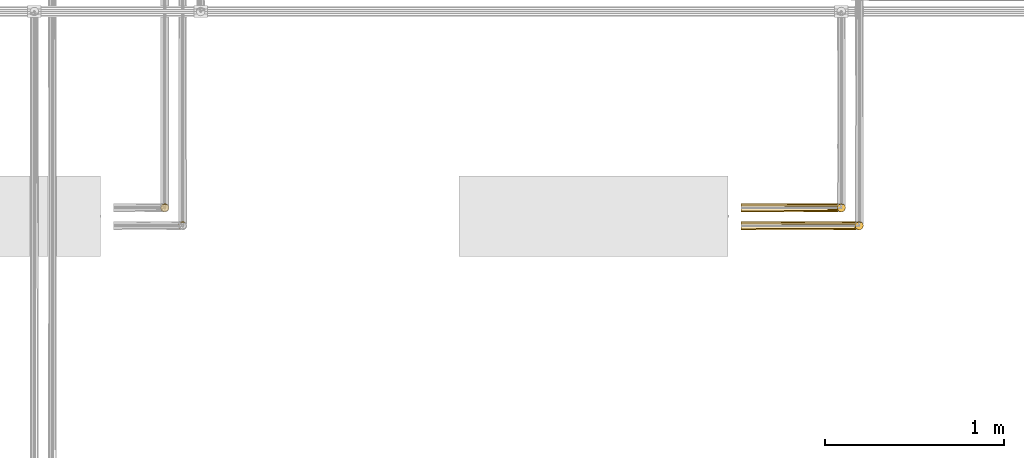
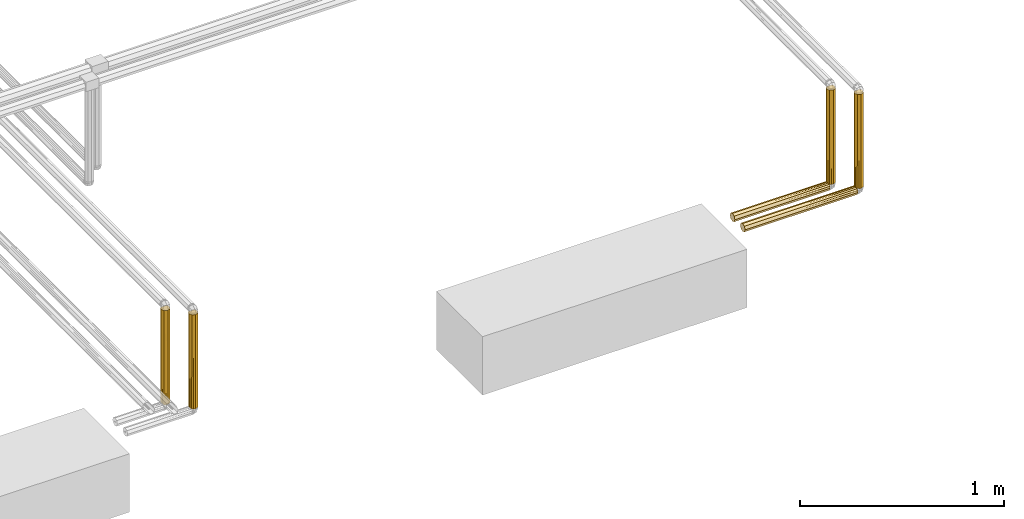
# One storey, part 218 of 652: 6 coverings.
"""IFC2X3 building model written with IfcOpenShell, lengths in millimetres."""

from ifc_helpers import new_model, entity, si_unit, converted_unit, direction, frame, origin, place, context, subcontext, project, spatial, faceted_brep, material, type_object, element, save


model = new_model("IFC2X3")

# Units and contexts
model_context = context("Model", 3, precision=0.01, world=frame((0.0, 0.0, 308426.39999999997)), true_north=direction((6.123233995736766e-17, 1.0)))
plan_context = context("Plan", 3, precision=0.01, world=frame((0.0, 0.0, 308426.39999999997)), true_north=direction((6.123233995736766e-17, 1.0)))
body_context = subcontext(model_context, "Body", "Model", "MODEL_VIEW")
ifc_project = project(units=[si_unit("LENGTHUNIT", "METRE", prefix="MILLI"), si_unit("AREAUNIT", "SQUARE_METRE"), si_unit("VOLUMEUNIT", "CUBIC_METRE"), converted_unit("PLANEANGLEUNIT", "DEGREE", entity("IfcPlaneAngleMeasure", 0.017453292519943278), si_unit("PLANEANGLEUNIT", "RADIAN"), dimensions=[0, 0, 0, 0, 0, 0, 0])], contexts=[model_context, plan_context])

# Site, building, storey
site_placement = place(None, origin())
site = spatial("IfcSite", under=ifc_project, at=site_placement, Name="Default", CompositionType="ELEMENT")
building_placement = place(site_placement, origin())
building = spatial("IfcBuilding", under=site, at=building_placement, CompositionType="ELEMENT")
storey_placement = place(building_placement, frame((0.0, 0.0, 1730.6999999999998)))
storey = spatial("IfcBuildingStorey", under=building, at=storey_placement, Name="EG_Produktion_FFB", CompositionType="ELEMENT", Elevation=1730.6999999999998)

# Coverings
ifc_material = material(Name="Dämmung - Armaflex-Schlauch")
covering_type = type_object("IfcCoveringType", Name="Rohrdämmung außen:Armaflex-Schlauch", PredefinedType="INSULATION")
covering_1_placement = place(storey_placement, frame((62174.36218313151, 66844.67878550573, 2725.3577722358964)))
element("IfcCovering", 1, at=covering_1_placement, inside=storey, type_object=covering_type, material=ifc_material, Name="Rohrdämmung außen:Armaflex-Schlauch", ObjectType="Rohrdämmung außen:Armaflex-Schlauch", PredefinedType="INSULATION", context=body_context, shape_type="Brep", body=[
    faceted_brep([(640.0, 1.5952722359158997, -25.357772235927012), (640.0, 3.3352410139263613, -29.558428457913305), (640.0, 5.075209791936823, -33.759084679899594), (640.0, 6.815178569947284, -37.95974090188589), (640.0, 8.55514734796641, -42.16039712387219), (640.0, 12.755803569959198, -43.90036590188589), (640.0, 16.956459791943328, -45.6403346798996), (640.0, 21.157116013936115, -47.380303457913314), (640.0, 25.35777223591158, -49.120272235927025), (640.0, 29.329945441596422, -47.4749442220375), (640.0, 33.759084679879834, -45.6403346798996), (640.0, 37.95974090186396, -43.90036590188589), (640.0, 42.160397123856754, -42.16039712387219), (640.0, 43.90036590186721, -37.95974090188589), (640.0, 45.64033467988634, -33.759084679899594), (640.0, 47.3803034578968, -29.558428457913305), (640.0, 49.12027223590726, -25.357772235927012), (640.0, 48.047093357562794, -20.423230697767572), (640.0, 46.97391447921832, -15.488689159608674), (640.0, 43.951164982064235, -11.448105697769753), (640.0, 40.92841548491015, -7.407522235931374), (640.0, 9.787128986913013, -7.407522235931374), (640.0, 6.764379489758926, -11.448105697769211), (640.0, 3.7416299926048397, -15.488689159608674), (640.0, 2.6684511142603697, -20.423230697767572), (0.0, 37.95974090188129, -43.900365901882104), (0.0, 33.759084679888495, -45.640334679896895), (0.0, 29.55842845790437, -47.380303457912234), (0.0, 25.35777223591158, -49.1202722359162), (0.0, 21.38559902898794, -47.47494422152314), (0.0, 17.4134258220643, -45.82961620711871), (0.0, 12.98428658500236, -43.995006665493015), (0.0, 8.55514734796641, -42.16039712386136), (0.0, 6.815178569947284, -37.95974090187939), (0.0, 5.075209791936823, -33.75908467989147), (0.0, 3.3352410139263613, -29.55842845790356), (0.0, 1.5952722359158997, -25.357772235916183), (0.0, 3.2406002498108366, -21.385599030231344), (0.0, 5.075209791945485, -16.95645979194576), (0.0, 6.815178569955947, -12.755803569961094), (0.0, 8.55514734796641, -8.55514734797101), (0.0, 12.755803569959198, -6.8151785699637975), (0.0, 16.956459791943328, -5.0752097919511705), (0.0, 21.157116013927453, -3.3352410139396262), (0.0, 25.35777223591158, -1.5952722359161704), (0.0, 29.558428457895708, -3.3352410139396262), (0.0, 33.759084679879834, -5.075209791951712), (0.0, 37.95974090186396, -6.815178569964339), (0.0, 42.160397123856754, -8.55514734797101), (0.0, 43.90036590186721, -12.755803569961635), (0.0, 45.640334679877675, -16.956459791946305), (0.0, 47.3803034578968, -21.157116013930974), (0.0, 49.12027223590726, -25.357772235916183), (0.0, 47.474944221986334, -29.329945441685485), (0.0, 45.82961620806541, -33.30211864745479), (0.0, 43.99500666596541, -37.73125788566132), (0.0, 42.160397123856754, -42.16039712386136), (634.9379666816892, 29.512793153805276, -2.3454889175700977), (637.8440916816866, 37.29811477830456, -5.2516139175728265), (635.688183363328, 33.66781407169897, -3.095705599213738), (634.1877500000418, 25.35777223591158, -1.595272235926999), (634.9379666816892, 21.202751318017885, -2.3454889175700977), (635.688183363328, 17.04773040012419, -3.095705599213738), (637.8440916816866, 13.417429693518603, -5.251613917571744)], [[[0, 1, 2, 3, 4, 5, 6, 7, 8, 9, 10, 11, 12, 13, 14, 15, 16, 17, 18, 19, 20, 21, 22, 23, 24]], [[25, 26, 27, 28, 29, 30, 31, 32, 33, 34, 35, 36, 37, 38, 39, 40, 41, 42, 43, 44, 45, 46, 47, 48, 49, 50, 51, 52, 53, 54, 55, 56]], [[34, 33, 32, 4, 3, 2, 1, 0, 36, 35]], [[30, 29, 28, 8, 7, 6, 5, 4, 32, 31]], [[9, 8, 28, 27, 26, 25, 56, 12, 11, 10]], [[12, 56, 55, 54, 53, 52, 16, 15, 14, 13]], [[19, 49, 48]], [[52, 51, 16]], [[50, 18, 17]], [[50, 49, 18]], [[44, 57, 45]], [[20, 47, 58]], [[59, 46, 45]], [[17, 51, 50]], [[46, 59, 58]], [[18, 49, 19]], [[57, 59, 45]], [[16, 51, 17]], [[48, 20, 19]], [[60, 57, 44]], [[47, 20, 48]], [[47, 46, 58]], [[44, 61, 60]], [[24, 38, 37]], [[61, 44, 43]], [[62, 42, 63]], [[22, 40, 39]], [[40, 22, 21]], [[38, 24, 23]], [[21, 41, 40]], [[42, 62, 43]], [[37, 0, 24]], [[21, 63, 41]], [[39, 23, 22]], [[39, 38, 23]], [[43, 62, 61]], [[37, 36, 0]], [[63, 42, 41]], [[61, 62, 63, 21, 20, 58, 59, 57, 60]]]),
])
covering_2_placement = place(storey_placement, frame((62174.3621831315, 66944.67878550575, 2725.357772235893)))
element("IfcCovering", 2, at=covering_2_placement, inside=storey, type_object=covering_type, material=ifc_material, Name="Rohrdämmung außen:Armaflex-Schlauch", ObjectType="Rohrdämmung außen:Armaflex-Schlauch", PredefinedType="INSULATION", context=body_context, shape_type="Brep", body=[
    faceted_brep([(540.0, 1.5952722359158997, -25.357772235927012), (540.0, 3.3352410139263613, -29.558428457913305), (540.0, 5.075209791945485, -33.759084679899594), (540.0, 6.815178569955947, -37.95974090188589), (540.0, 8.55514734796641, -42.16039712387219), (540.0, 12.755803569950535, -43.90036590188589), (540.0, 16.956459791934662, -45.6403346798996), (540.0, 21.157116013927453, -47.380303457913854), (540.0, 25.35777223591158, -49.120272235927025), (540.0, 30.065533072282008, -47.170253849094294), (540.0, 33.759084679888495, -45.6403346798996), (540.0, 37.95974090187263, -43.90036590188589), (540.0, 42.160397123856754, -42.16039712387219), (540.0, 43.90036590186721, -37.95974090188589), (540.0, 45.640334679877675, -33.759084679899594), (540.0, 47.3803034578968, -29.558428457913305), (540.0, 49.12027223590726, -25.357772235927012), (540.0, 48.047093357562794, -20.423230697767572), (540.0, 46.97391447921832, -15.488689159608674), (540.0, 43.951164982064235, -11.448105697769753), (540.0, 40.92841548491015, -7.407522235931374), (540.0, 9.787128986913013, -7.407522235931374), (540.0, 6.764379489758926, -11.448105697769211), (540.0, 3.7416299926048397, -15.488689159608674), (540.0, 2.6684511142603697, -20.423230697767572), (0.0, 37.95974090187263, -43.900365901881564), (0.0, 33.759084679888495, -45.640334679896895), (0.0, 29.55842845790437, -47.38030345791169), (0.0, 25.35777223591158, -49.1202722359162), (0.0, 20.65001139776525, -47.170253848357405), (0.0, 15.942250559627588, -45.220235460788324), (0.0, 8.55514734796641, -42.16039712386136), (0.0, 6.815178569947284, -37.95974090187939), (0.0, 5.075209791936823, -33.75908467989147), (0.0, 3.3352410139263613, -29.55842845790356), (0.0, 1.5952722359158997, -25.357772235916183), (0.0, 3.5452906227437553, -20.650011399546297), (0.0, 5.075209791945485, -16.95645979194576), (0.0, 6.81517856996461, -12.755803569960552), (0.0, 8.55514734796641, -8.55514734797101), (0.0, 12.755803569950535, -6.8151785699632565), (0.0, 16.956459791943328, -5.0752097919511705), (0.0, 21.157116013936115, -3.335241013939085), (0.0, 25.35777223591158, -1.5952722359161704), (0.0, 29.558428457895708, -3.3352410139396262), (0.0, 33.759084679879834, -5.075209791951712), (0.0, 37.95974090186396, -6.8151785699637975), (0.0, 42.160397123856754, -8.55514734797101), (0.0, 43.90036590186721, -12.755803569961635), (0.0, 45.640334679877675, -16.956459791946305), (0.0, 47.38030345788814, -21.157116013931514), (0.0, 49.12027223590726, -25.357772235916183), (0.0, 47.170253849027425, -30.065533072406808), (0.0, 45.22023546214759, -34.77329390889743), (0.0, 42.160397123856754, -42.16039712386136), (534.937966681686, 29.512793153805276, -2.3454889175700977), (537.8440916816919, 37.29811477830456, -5.2516139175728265), (535.6881833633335, 33.66781407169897, -3.095705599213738), (534.1877500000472, 25.35777223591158, -1.595272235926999), (534.937966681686, 21.202751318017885, -2.3454889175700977), (535.6881833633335, 17.04773040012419, -3.095705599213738), (537.8440916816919, 13.417429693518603, -5.251613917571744)], [[[0, 1, 2, 3, 4, 5, 6, 7, 8, 9, 10, 11, 12, 13, 14, 15, 16, 17, 18, 19, 20, 21, 22, 23, 24]], [[25, 26, 27, 28, 29, 30, 31, 32, 33, 34, 35, 36, 37, 38, 39, 40, 41, 42, 43, 44, 45, 46, 47, 48, 49, 50, 51, 52, 53, 54]], [[33, 32, 31, 4, 3, 2, 1, 0, 35, 34]], [[31, 30, 29, 28, 8, 7, 6, 5, 4]], [[51, 16, 15, 14, 13, 12, 54, 53, 52]], [[11, 10, 9, 8, 28, 27, 26, 25, 54, 12]], [[19, 48, 47]], [[51, 50, 16]], [[49, 18, 17]], [[49, 48, 18]], [[43, 55, 44]], [[20, 46, 56]], [[57, 45, 44]], [[17, 50, 49]], [[45, 57, 56]], [[18, 48, 19]], [[55, 57, 44]], [[16, 50, 17]], [[47, 20, 19]], [[58, 55, 43]], [[46, 20, 47]], [[46, 45, 56]], [[43, 59, 58]], [[24, 37, 36, 35]], [[59, 43, 42]], [[60, 41, 61]], [[22, 39, 38]], [[39, 22, 21]], [[37, 24, 23]], [[21, 40, 39]], [[41, 60, 42]], [[21, 61, 40]], [[38, 23, 22]], [[38, 37, 23]], [[42, 60, 59]], [[35, 0, 24]], [[61, 41, 40]], [[59, 60, 61, 21, 20, 56, 57, 55, 58]]]),
])
covering_3_placement = place(storey_placement, frame((62806.95466089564, 66844.67878550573, 3283.6450222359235)))
element("IfcCovering", 3, at=covering_3_placement, inside=storey, type_object=covering_type, material=ifc_material, Name="Rohrdämmung außen:Armaflex-Schlauch", ObjectType="Rohrdämmung außen:Armaflex-Schlauch", PredefinedType="INSULATION", context=body_context, shape_type="Brep", body=[
    faceted_brep([(9.787128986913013, 43.30802223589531, -1.5952722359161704), (6.764379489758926, 39.267438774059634, -1.5952722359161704), (3.7416299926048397, 35.22685531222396, -1.5952722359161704), (2.6684511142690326, 30.29231377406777, -1.5952722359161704), (1.5952722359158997, 25.357772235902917, -1.5952722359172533), (3.3352410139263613, 21.157116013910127, -1.5952722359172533), (5.075209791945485, 16.956459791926, -1.5952722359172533), (6.815178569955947, 12.755803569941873, -1.5952722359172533), (8.55514734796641, 8.555147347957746, -1.5952722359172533), (12.755803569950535, 6.815178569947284, -1.5952722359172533), (16.956459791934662, 5.075209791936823, -1.5952722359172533), (20.85113670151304, 3.461981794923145, -1.5952722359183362), (25.35777223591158, 1.5952722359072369, -1.5952722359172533), (29.558428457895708, 3.3352410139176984, -1.5952722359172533), (33.759084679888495, 5.075209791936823, -1.5952722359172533), (37.95974090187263, 6.815178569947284, -1.5952722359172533), (42.160397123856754, 8.555147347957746, -1.5952722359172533), (43.90036590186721, 12.755803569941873, -1.5952722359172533), (45.640334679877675, 16.956459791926, -1.5952722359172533), (47.253562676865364, 20.851136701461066, -1.5952722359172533), (49.12027223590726, 25.357772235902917, -1.5952722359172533), (48.047093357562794, 30.29231377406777, -1.5952722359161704), (46.97391447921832, 35.22685531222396, -1.5952722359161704), (43.951164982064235, 39.267438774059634, -1.5952722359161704), (40.92841548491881, 43.30802223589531, -1.5952722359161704), (37.95974090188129, 6.815178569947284, -565.6947722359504), (33.759084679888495, 5.07520979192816, -565.694772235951), (29.558428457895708, 3.3352410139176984, -565.6947722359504), (25.35777223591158, 1.5952722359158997, -565.6947722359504), (20.423230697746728, 2.668451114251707, -565.6947722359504), (15.488689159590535, 3.741629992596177, -565.6947722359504), (11.4481056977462, 6.764379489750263, -565.6947722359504), (7.407522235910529, 9.78712898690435, -565.6947722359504), (7.407522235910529, 40.928415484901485, -565.6947722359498), (11.4481056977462, 43.95116498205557, -565.6947722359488), (15.488689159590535, 46.97391447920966, -565.6947722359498), (20.423230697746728, 48.047093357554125, -565.6947722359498), (25.35777223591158, 49.12027223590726, -565.6947722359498), (29.558428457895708, 47.38030345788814, -565.6947722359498), (33.759084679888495, 45.640334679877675, -565.6947722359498), (37.95974090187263, 43.90036590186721, -565.6947722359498), (42.160397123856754, 42.160397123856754, -565.6947722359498), (43.90036590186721, 37.95974090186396, -565.6947722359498), (45.640334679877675, 33.759084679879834, -565.6947722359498), (47.3803034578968, 29.558428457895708, -565.6947722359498), (49.12027223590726, 25.35777223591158, -565.6947722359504), (47.253562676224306, 20.85113669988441, -565.6947722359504), (45.38685311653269, 16.344501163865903, -565.6947722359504), (43.773625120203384, 12.449824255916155, -565.6947722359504), (42.160397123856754, 8.55514734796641, -565.6947722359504), (29.512793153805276, 48.37005555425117, -6.657305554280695), (37.29811477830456, 45.46393055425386, -3.7511805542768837), (33.66781407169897, 47.6198388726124, -5.907088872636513), (25.35777223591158, 49.1202722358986, -7.407522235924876), (21.202751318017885, 48.37005555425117, -6.657305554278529), (17.04773040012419, 47.6198388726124, -5.907088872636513), (13.417429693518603, 45.46393055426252, -3.7511805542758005), (5.251613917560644, 37.2981147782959, -563.5388639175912), (2.34548891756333, 29.51279315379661, -560.632738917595), (1.5952722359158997, 25.35777223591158, -559.8825222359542), (3.095705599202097, 33.66781407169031, -561.3829555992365), (2.345488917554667, 21.202751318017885, -560.6327389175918), (3.095705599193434, 17.04773040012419, -561.3829555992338), (5.251613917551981, 13.417429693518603, -563.5388639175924)], [[[0, 1, 2, 3, 4, 5, 6, 7, 8, 9, 10, 11, 12, 13, 14, 15, 16, 17, 18, 19, 20, 21, 22, 23, 24]], [[25, 26, 27, 28, 29, 30, 31, 32, 33, 34, 35, 36, 37, 38, 39, 40, 41, 42, 43, 44, 45, 46, 47, 48, 49]], [[26, 25, 49, 16, 15, 14, 13, 12, 28, 27]], [[16, 49, 48, 47, 46, 45, 20, 19, 18, 17]], [[23, 42, 41]], [[45, 44, 20]], [[43, 22, 21]], [[43, 42, 22]], [[37, 50, 38]], [[24, 40, 51]], [[52, 39, 38]], [[21, 44, 43]], [[39, 52, 51]], [[22, 42, 23]], [[50, 52, 38]], [[20, 44, 21]], [[41, 24, 23]], [[53, 50, 37]], [[40, 24, 41]], [[40, 39, 51]], [[54, 53, 37]], [[36, 55, 54]], [[56, 34, 0]], [[1, 57, 2]], [[56, 55, 35]], [[57, 1, 33]], [[58, 4, 3]], [[35, 55, 36]], [[58, 59, 4]], [[54, 37, 36]], [[34, 56, 35]], [[2, 60, 3]], [[34, 33, 0]], [[3, 60, 58]], [[1, 0, 33]], [[57, 60, 2]], [[59, 61, 4]], [[29, 28, 11]], [[5, 61, 62]], [[30, 9, 31]], [[63, 6, 62]], [[8, 32, 31]], [[30, 29, 10]], [[10, 29, 11]], [[4, 61, 5]], [[31, 9, 8]], [[28, 12, 11]], [[30, 10, 9]], [[6, 63, 7]], [[32, 7, 63]], [[5, 62, 6]], [[7, 32, 8]], [[52, 50, 53, 54, 55, 56, 0, 24, 51]], [[60, 57, 33, 32, 63, 62, 61, 59, 58]]]),
])
covering_4_placement = place(storey_placement, frame((62706.95466089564, 66944.67878550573, 3283.6450222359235)))
element("IfcCovering", 4, at=covering_4_placement, inside=storey, type_object=covering_type, material=ifc_material, Name="Rohrdämmung außen:Armaflex-Schlauch", ObjectType="Rohrdämmung außen:Armaflex-Schlauch", PredefinedType="INSULATION", context=body_context, shape_type="Brep", body=[
    faceted_brep([(3.7416299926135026, 35.2268553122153, -1.5952722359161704), (2.6684511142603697, 30.29231377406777, -1.5952722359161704), (1.5952722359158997, 25.35777223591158, -1.5952722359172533), (3.335241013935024, 21.157116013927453, -1.5952722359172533), (5.075209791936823, 16.956459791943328, -1.5952722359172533), (6.815178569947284, 12.755803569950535, -1.5952722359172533), (8.55514734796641, 8.55514734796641, -1.5952722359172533), (12.755803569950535, 6.815178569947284, -1.5952722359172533), (16.956459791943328, 5.075209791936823, -1.5952722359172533), (20.851136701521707, 3.4619817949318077, -1.5952722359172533), (25.35777223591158, 1.5952722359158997, -1.5952722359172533), (29.558428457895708, 3.335241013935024, -1.5952722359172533), (33.759084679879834, 5.075209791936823, -1.5952722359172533), (37.95974090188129, 6.815178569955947, -1.5952722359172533), (42.160397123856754, 8.55514734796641, -1.5952722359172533), (43.90036590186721, 12.755803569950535, -1.5952722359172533), (45.64033467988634, 16.956459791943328, -1.5952722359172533), (47.253562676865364, 20.851136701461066, -1.5952722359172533), (49.12027223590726, 25.35777223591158, -1.5952722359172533), (48.047093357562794, 30.29231377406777, -1.5952722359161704), (46.97391447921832, 35.22685531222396, -1.5952722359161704), (43.951164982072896, 39.267438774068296, -1.5952722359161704), (40.92841548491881, 43.30802223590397, -1.5952722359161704), (9.787128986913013, 43.30802223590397, -1.5952722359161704), (6.764379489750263, 39.267438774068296, -1.5952722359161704), (37.95974090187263, 6.815178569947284, -565.6947722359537), (33.759084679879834, 5.075209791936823, -565.6947722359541), (29.558428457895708, 3.3352410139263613, -565.6947722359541), (25.35777223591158, 1.5952722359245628, -565.6947722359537), (20.42323069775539, 2.6684511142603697, -565.6947722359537), (15.488689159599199, 3.7416299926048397, -565.6947722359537), (11.448105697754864, 6.764379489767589, -565.6947722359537), (7.407522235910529, 9.787128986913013, -565.6947722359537), (7.407522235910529, 40.92841548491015, -565.6947722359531), (11.4481056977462, 43.95116498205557, -565.694772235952), (15.488689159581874, 46.97391447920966, -565.6947722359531), (20.423230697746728, 48.047093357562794, -565.6947722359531), (25.35777223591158, 49.12027223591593, -565.6947722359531), (29.55842845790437, 47.3803034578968, -565.6947722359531), (33.759084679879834, 45.64033467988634, -565.6947722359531), (37.95974090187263, 43.90036590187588, -565.6947722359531), (42.160397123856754, 42.160397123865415, -565.6947722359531), (43.90036590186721, 37.95974090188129, -565.6947722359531), (45.64033467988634, 33.759084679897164, -565.6947722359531), (47.3803034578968, 29.55842845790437, -565.6947722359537), (49.12027223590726, 25.357772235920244, -565.6947722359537), (47.253562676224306, 20.851136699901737, -565.6947722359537), (45.38685311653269, 16.344501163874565, -565.6947722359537), (43.773625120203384, 12.449824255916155, -565.6947722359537), (42.160397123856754, 8.55514734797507, -565.6947722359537), (29.512793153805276, 48.3700555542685, -6.657305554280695), (37.29811477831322, 45.46393055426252, -3.7511805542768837), (33.66781407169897, 47.61983887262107, -5.907088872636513), (25.35777223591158, 49.12027223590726, -7.407522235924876), (21.202751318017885, 48.3700555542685, -6.657305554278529), (17.04773040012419, 47.61983887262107, -5.907088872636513), (13.41742969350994, 45.46393055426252, -3.7511805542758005), (5.251613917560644, 37.29811477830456, -563.5388639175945), (2.34548891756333, 29.512793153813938, -560.6327389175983), (1.5952722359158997, 25.357772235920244, -559.8825222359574), (3.095705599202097, 33.66781407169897, -561.3829555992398), (2.345488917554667, 21.20275131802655, -560.632738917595), (3.095705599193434, 17.047730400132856, -561.3829555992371), (5.251613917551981, 13.417429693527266, -563.5388639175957)], [[[0, 1, 2, 3, 4, 5, 6, 7, 8, 9, 10, 11, 12, 13, 14, 15, 16, 17, 18, 19, 20, 21, 22, 23, 24]], [[25, 26, 27, 28, 29, 30, 31, 32, 33, 34, 35, 36, 37, 38, 39, 40, 41, 42, 43, 44, 45, 46, 47, 48, 49]], [[26, 25, 49, 14, 13, 12, 11, 10, 28, 27]], [[14, 49, 48, 47, 46, 45, 18, 17, 16, 15]], [[21, 42, 41]], [[45, 44, 18]], [[43, 20, 19]], [[43, 42, 20]], [[37, 50, 38]], [[22, 40, 51]], [[52, 39, 38]], [[19, 44, 43]], [[39, 52, 51]], [[20, 42, 21]], [[50, 52, 38]], [[18, 44, 19]], [[41, 22, 21]], [[53, 50, 37]], [[40, 22, 41]], [[40, 39, 51]], [[54, 53, 37]], [[36, 55, 54]], [[56, 34, 23]], [[24, 57, 0]], [[56, 55, 35]], [[57, 24, 33]], [[58, 2, 1]], [[35, 55, 36]], [[58, 59, 2]], [[54, 37, 36]], [[34, 56, 35]], [[0, 60, 1]], [[34, 33, 23]], [[1, 60, 58]], [[24, 23, 33]], [[57, 60, 0]], [[59, 61, 2]], [[29, 28, 9]], [[3, 61, 62]], [[30, 7, 31]], [[63, 4, 62]], [[6, 32, 31]], [[30, 29, 8]], [[8, 29, 9]], [[2, 61, 3]], [[31, 7, 6]], [[28, 10, 9]], [[30, 8, 7]], [[4, 63, 5]], [[32, 5, 63]], [[3, 62, 4]], [[5, 32, 6]], [[52, 50, 53, 54, 55, 56, 23, 22, 51]], [[60, 57, 33, 32, 63, 62, 61, 59, 58]]]),
])
covering_5_placement = place(storey_placement, frame((59034.64222776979, 66844.67878550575, 2716.35497776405)))
element("IfcCovering", 5, at=covering_5_placement, inside=storey, type_object=covering_type, material=ifc_material, Name="Rohrdämmung außen:Armaflex-Schlauch", ObjectType="Rohrdämmung außen:Armaflex-Schlauch", PredefinedType="INSULATION", context=body_context, shape_type="Brep", body=[
    faceted_brep([(7.407522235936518, 9.787128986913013, 1.5952722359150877), (7.407522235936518, 40.92841548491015, 1.5952722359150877), (11.44810569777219, 43.951164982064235, 1.595272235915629), (15.488689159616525, 46.97391447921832, 1.5952722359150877), (20.423230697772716, 48.047093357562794, 1.595272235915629), (25.357772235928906, 49.12027223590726, 1.595272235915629), (29.558428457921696, 47.3803034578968, 1.595272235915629), (33.759084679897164, 45.640334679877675, 1.595272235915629), (37.95974090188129, 43.90036590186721, 1.5952722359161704), (42.16039712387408, 42.160397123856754, 1.5952722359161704), (43.90036590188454, 37.95974090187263, 1.5952722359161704), (45.64033467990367, 33.759084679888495, 1.5952722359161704), (47.25356267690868, 29.86440777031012, 1.5952722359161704), (49.12027223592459, 25.35777223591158, 1.5952722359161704), (47.25356267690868, 20.85113670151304, 1.5952722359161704), (45.64033467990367, 16.956459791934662, 1.5952722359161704), (43.9003659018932, 12.755803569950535, 1.595272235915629), (42.16039712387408, 8.55514734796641, 1.5952722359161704), (37.95974090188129, 6.815178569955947, 1.5952722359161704), (33.759084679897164, 5.075209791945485, 1.595272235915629), (29.86440777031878, 3.4619817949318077, 1.5952722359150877), (25.357772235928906, 1.5952722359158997, 1.595272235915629), (20.423230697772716, 2.6684511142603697, 1.595272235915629), (15.488689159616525, 3.7416299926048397, 1.5952722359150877), (11.44810569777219, 6.764379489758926, 1.5952722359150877), (3.335241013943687, 21.157116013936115, 565.6947722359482), (5.075209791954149, 16.956459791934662, 565.6947722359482), (6.81517856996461, 12.755803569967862, 565.6947722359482), (8.55514734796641, 8.55514734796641, 565.6947722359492), (12.755803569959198, 6.815178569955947, 565.6947722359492), (16.956459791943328, 5.075209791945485, 565.6947722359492), (21.157116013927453, 3.335241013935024, 565.6947722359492), (25.35777223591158, 1.5952722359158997, 565.6947722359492), (29.864407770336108, 3.4619817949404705, 565.6947722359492), (34.37104330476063, 5.328691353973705, 565.6947722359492), (38.26572021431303, 6.941919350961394, 565.6947722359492), (42.160397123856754, 8.55514734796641, 565.6947722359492), (43.90036590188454, 12.755803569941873, 565.6947722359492), (45.640334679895, 16.956459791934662, 565.6947722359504), (47.38030345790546, 21.15711601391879, 565.6947722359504), (49.12027223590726, 25.35777223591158, 565.6947722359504), (48.04709335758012, 30.292313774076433, 565.6947722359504), (46.973914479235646, 35.22685531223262, 565.6947722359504), (43.951164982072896, 39.26743877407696, 565.6947722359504), (40.92841548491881, 43.30802223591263, 565.6947722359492), (9.787128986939, 43.30802223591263, 565.6947722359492), (6.764379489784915, 39.26743877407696, 565.6947722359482), (3.7416299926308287, 35.22685531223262, 565.6947722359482), (2.6684511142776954, 30.292313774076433, 565.6947722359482), (1.5952722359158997, 25.35777223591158, 565.6947722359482), (2.3454889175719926, 29.512793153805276, 6.6573055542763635), (1.5952722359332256, 25.35777223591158, 7.407522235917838), (3.0957055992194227, 33.66781407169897, 5.90708887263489), (5.25161391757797, 37.29811477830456, 3.7511805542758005), (13.417429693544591, 45.46393055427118, 563.5388639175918), (17.047730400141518, 47.61983887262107, 561.3829555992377), (21.20275131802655, 48.37005555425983, 560.6327389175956), (25.35777223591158, 49.12027223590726, 559.8825222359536), (29.512793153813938, 48.3700555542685, 560.6327389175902), (33.66781407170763, 47.61983887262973, 561.3829555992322), (37.29811477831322, 45.46393055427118, 563.5388639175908), (2.3454889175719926, 21.202751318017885, 6.657305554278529), (5.25161391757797, 13.417429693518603, 3.751180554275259), (3.0957055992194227, 17.04773040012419, 5.90708887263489)], [[[0, 1, 2, 3, 4, 5, 6, 7, 8, 9, 10, 11, 12, 13, 14, 15, 16, 17, 18, 19, 20, 21, 22, 23, 24]], [[25, 26, 27, 28, 29, 30, 31, 32, 33, 34, 35, 36, 37, 38, 39, 40, 41, 42, 43, 44, 45, 46, 47, 48, 49]], [[50, 51, 49]], [[48, 52, 50]], [[53, 46, 1]], [[2, 54, 3]], [[54, 55, 3]], [[54, 2, 45]], [[53, 52, 47]], [[56, 5, 4]], [[47, 52, 48]], [[56, 57, 5]], [[50, 49, 48]], [[46, 45, 1]], [[46, 53, 47]], [[2, 1, 45]], [[4, 55, 56]], [[3, 55, 4]], [[57, 58, 5]], [[41, 40, 12]], [[6, 58, 59]], [[42, 10, 43]], [[60, 7, 59]], [[9, 44, 43]], [[42, 41, 11]], [[11, 41, 12]], [[5, 58, 6]], [[43, 10, 9]], [[40, 13, 12]], [[42, 11, 10]], [[7, 60, 8]], [[44, 8, 60]], [[6, 59, 7]], [[8, 44, 9]], [[13, 40, 39, 38, 37, 36, 17, 16, 15, 14]], [[17, 36, 35, 34, 33, 32, 21, 20, 19, 18]], [[24, 29, 28]], [[32, 31, 21]], [[30, 23, 22]], [[30, 29, 23]], [[49, 61, 25]], [[0, 27, 62]], [[63, 26, 25]], [[22, 31, 30]], [[26, 63, 62]], [[23, 29, 24]], [[61, 63, 25]], [[21, 31, 22]], [[28, 0, 24]], [[51, 61, 49]], [[27, 0, 28]], [[27, 26, 62]], [[50, 52, 53, 1, 0, 62, 63, 61, 51]], [[44, 60, 59, 58, 57, 56, 55, 54, 45]]]),
])
covering_6_placement = place(storey_placement, frame((58934.642227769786, 66944.67878550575, 2716.3549777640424)))
element("IfcCovering", 6, at=covering_6_placement, inside=storey, type_object=covering_type, material=ifc_material, Name="Rohrdämmung außen:Armaflex-Schlauch", ObjectType="Rohrdämmung außen:Armaflex-Schlauch", PredefinedType="INSULATION", context=body_context, shape_type="Brep", body=[
    faceted_brep([(7.407522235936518, 9.78712898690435, 1.5952722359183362), (7.407522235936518, 40.92841548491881, 1.5952722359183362), (11.44810569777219, 43.951164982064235, 1.595272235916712), (15.488689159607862, 46.97391447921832, 1.5952722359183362), (20.42323069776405, 48.047093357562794, 1.5952722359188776), (25.357772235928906, 49.12027223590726, 1.5952722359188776), (29.558428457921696, 47.3803034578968, 1.5952722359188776), (33.759084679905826, 45.64033467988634, 1.5952722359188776), (37.95974090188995, 43.90036590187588, 1.5952722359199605), (42.16039712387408, 42.160397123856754, 1.5952722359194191), (43.90036590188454, 37.95974090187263, 1.5952722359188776), (45.640334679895, 33.759084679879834, 1.5952722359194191), (47.25356267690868, 29.864407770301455, 1.5952722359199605), (49.12027223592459, 25.35777223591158, 1.5952722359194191), (47.25356267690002, 20.851136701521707, 1.5952722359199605), (45.640334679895, 16.956459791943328, 1.5952722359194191), (43.90036590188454, 12.755803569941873, 1.5952722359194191), (42.16039712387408, 8.55514734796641, 1.5952722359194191), (37.95974090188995, 6.815178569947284, 1.5952722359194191), (33.759084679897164, 5.075209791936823, 1.5952722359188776), (29.86440777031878, 3.4619817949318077, 1.5952722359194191), (25.357772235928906, 1.5952722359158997, 1.5952722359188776), (20.42323069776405, 2.6684511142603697, 1.5952722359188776), (15.488689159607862, 3.7416299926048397, 1.5952722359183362), (11.44810569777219, 6.764379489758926, 1.5952722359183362), (3.335241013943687, 21.157116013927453, 565.6947722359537), (5.075209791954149, 16.956459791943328, 565.6947722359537), (6.81517856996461, 12.755803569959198, 565.6947722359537), (8.55514734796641, 8.55514734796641, 565.6947722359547), (12.755803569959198, 6.81517856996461, 565.6947722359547), (16.956459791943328, 5.075209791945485, 565.6947722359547), (21.157116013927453, 3.3352410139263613, 565.6947722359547), (25.35777223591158, 1.5952722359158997, 565.6947722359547), (29.864407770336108, 3.4619817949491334, 565.6947722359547), (34.371043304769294, 5.328691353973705, 565.6947722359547), (38.26572021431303, 6.941919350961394, 565.6947722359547), (42.160397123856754, 8.55514734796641, 565.6947722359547), (43.90036590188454, 12.755803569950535, 565.6947722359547), (45.640334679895, 16.956459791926, 565.6947722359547), (47.38030345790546, 21.15711601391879, 565.6947722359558), (49.12027223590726, 25.35777223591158, 565.6947722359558), (48.04709335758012, 30.29231377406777, 565.6947722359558), (46.973914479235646, 35.22685531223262, 565.6947722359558), (43.95116498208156, 39.267438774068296, 565.6947722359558), (40.92841548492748, 43.30802223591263, 565.6947722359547), (9.78712898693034, 43.30802223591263, 565.6947722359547), (6.764379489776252, 39.26743877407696, 565.6947722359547), (3.7416299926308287, 35.22685531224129, 565.6947722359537), (2.6684511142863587, 30.292313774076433, 565.6947722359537), (1.5952722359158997, 25.35777223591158, 565.6947722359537), (2.345488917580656, 29.512793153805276, 6.657305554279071), (1.5952722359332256, 25.35777223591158, 7.407522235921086), (3.0957055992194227, 33.66781407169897, 5.907088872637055), (5.25161391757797, 37.29811477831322, 3.751180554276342), (13.417429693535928, 45.46393055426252, 563.5388639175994), (17.047730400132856, 47.61983887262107, 561.3829555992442), (21.202751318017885, 48.3700555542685, 560.6327389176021), (25.35777223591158, 49.12027223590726, 559.882522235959), (29.512793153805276, 48.3700555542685, 560.6327389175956), (33.66781407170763, 47.61983887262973, 561.3829555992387), (37.29811477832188, 45.46393055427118, 563.5388639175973), (2.345488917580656, 21.202751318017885, 6.657305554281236), (5.25161391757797, 13.41742969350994, 3.751180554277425), (3.0957055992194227, 17.04773040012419, 5.907088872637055)], [[[0, 1, 2, 3, 4, 5, 6, 7, 8, 9, 10, 11, 12, 13, 14, 15, 16, 17, 18, 19, 20, 21, 22, 23, 24]], [[25, 26, 27, 28, 29, 30, 31, 32, 33, 34, 35, 36, 37, 38, 39, 40, 41, 42, 43, 44, 45, 46, 47, 48, 49]], [[50, 51, 49]], [[48, 52, 50]], [[53, 46, 1]], [[2, 54, 3]], [[54, 55, 3]], [[54, 2, 45]], [[53, 52, 47]], [[56, 5, 4]], [[47, 52, 48]], [[56, 57, 5]], [[50, 49, 48]], [[46, 45, 1]], [[46, 53, 47]], [[2, 1, 45]], [[4, 55, 56]], [[3, 55, 4]], [[57, 58, 5]], [[41, 40, 12]], [[6, 58, 59]], [[42, 10, 43]], [[60, 7, 59]], [[9, 44, 43]], [[42, 41, 11]], [[11, 41, 12]], [[5, 58, 6]], [[43, 10, 9]], [[40, 13, 12]], [[42, 11, 10]], [[7, 60, 8]], [[44, 8, 60]], [[6, 59, 7]], [[8, 44, 9]], [[13, 40, 39, 38, 37, 36, 17, 16, 15, 14]], [[17, 36, 35, 34, 33, 32, 21, 20, 19, 18]], [[24, 29, 28]], [[32, 31, 21]], [[30, 23, 22]], [[30, 29, 23]], [[49, 61, 25]], [[0, 27, 62]], [[63, 26, 25]], [[22, 31, 30]], [[26, 63, 62]], [[23, 29, 24]], [[61, 63, 25]], [[21, 31, 22]], [[28, 0, 24]], [[51, 61, 49]], [[27, 0, 28]], [[27, 26, 62]], [[50, 52, 53, 1, 0, 62, 63, 61, 51]], [[44, 60, 59, 58, 57, 56, 55, 54, 45]]]),
])

save(model, "model.ifc")
